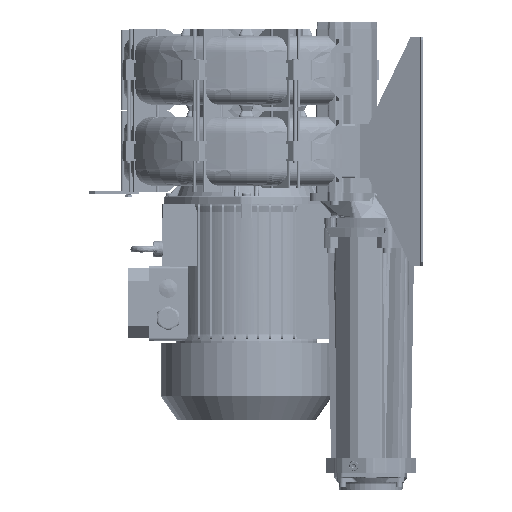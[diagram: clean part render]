
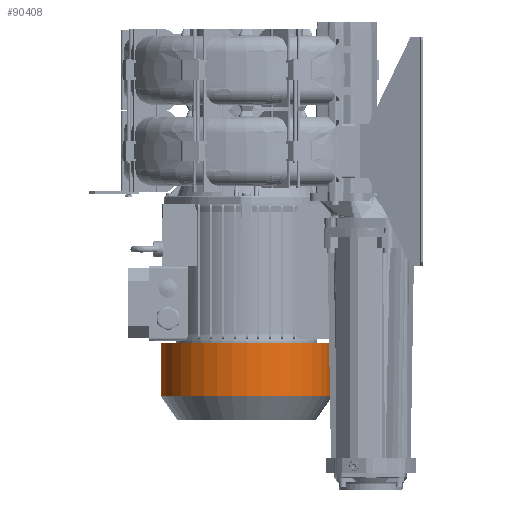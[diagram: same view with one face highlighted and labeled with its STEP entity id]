
A CAD part, left-side view. The second image highlights one B-rep face of the part: STEP entity #90408.
In plain terms, the highlighted cylindrical face has radius 129.5 mm (diameter 259 mm), a full revolution.
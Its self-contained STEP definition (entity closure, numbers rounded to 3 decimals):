
#24651 = ORIENTED_EDGE ( 'NONE', *, *, #299735, .T. ) ;
#27288 = VERTEX_POINT ( 'NONE', #55555 ) ;
#35724 = DIRECTION ( 'NONE',  ( 0., 0., 1. ) ) ;
#50275 = CARTESIAN_POINT ( 'NONE',  ( 0., -129.5, -185.796 ) ) ;
#55555 = CARTESIAN_POINT ( 'NONE',  ( 0., -129.5, -105.5 ) ) ;
#63407 = CARTESIAN_POINT ( 'NONE',  ( 0., 0., -105.5 ) ) ;
#90408 = ADVANCED_FACE ( 'NONE', ( #192221, #120586 ), #172169, .T. ) ;
#90638 = DIRECTION ( 'NONE',  ( 0., 0., -1. ) ) ;
#93328 = DIRECTION ( 'NONE',  ( 0., -1., 0. ) ) ;
#116624 = EDGE_LOOP ( 'NONE', ( #24651 ) ) ;
#116698 = DIRECTION ( 'NONE',  ( 0., 0., -1. ) ) ;
#120586 = FACE_OUTER_BOUND ( 'NONE', #222415, .T. ) ;
#133792 = EDGE_CURVE ( 'NONE', #27288, #27288, #193572, .T. ) ;
#147220 = CARTESIAN_POINT ( 'NONE',  ( 0., 0., -221.5 ) ) ;
#150915 = CIRCLE ( 'NONE', #289221, 129.5 ) ;
#161746 = AXIS2_PLACEMENT_3D ( 'NONE', #63407, #116698, #93328 ) ;
#162303 = CARTESIAN_POINT ( 'NONE',  ( 0., 0., -185.796 ) ) ;
#172169 = CYLINDRICAL_SURFACE ( 'NONE', #231685, 129.5 ) ;
#192221 = FACE_OUTER_BOUND ( 'NONE', #116624, .T. ) ;
#193572 = CIRCLE ( 'NONE', #161746, 129.5 ) ;
#222415 = EDGE_LOOP ( 'NONE', ( #325102 ) ) ;
#231685 = AXIS2_PLACEMENT_3D ( 'NONE', #147220, #90638, #247101 ) ;
#247101 = DIRECTION ( 'NONE',  ( 0., -1., 0. ) ) ;
#265420 = DIRECTION ( 'NONE',  ( 0., -1., 0. ) ) ;
#278388 = VERTEX_POINT ( 'NONE', #50275 ) ;
#289221 = AXIS2_PLACEMENT_3D ( 'NONE', #162303, #35724, #265420 ) ;
#299735 = EDGE_CURVE ( 'NONE', #278388, #278388, #150915, .T. ) ;
#325102 = ORIENTED_EDGE ( 'NONE', *, *, #133792, .T. ) ;
